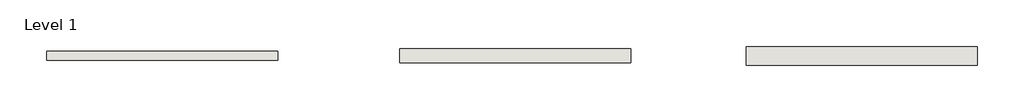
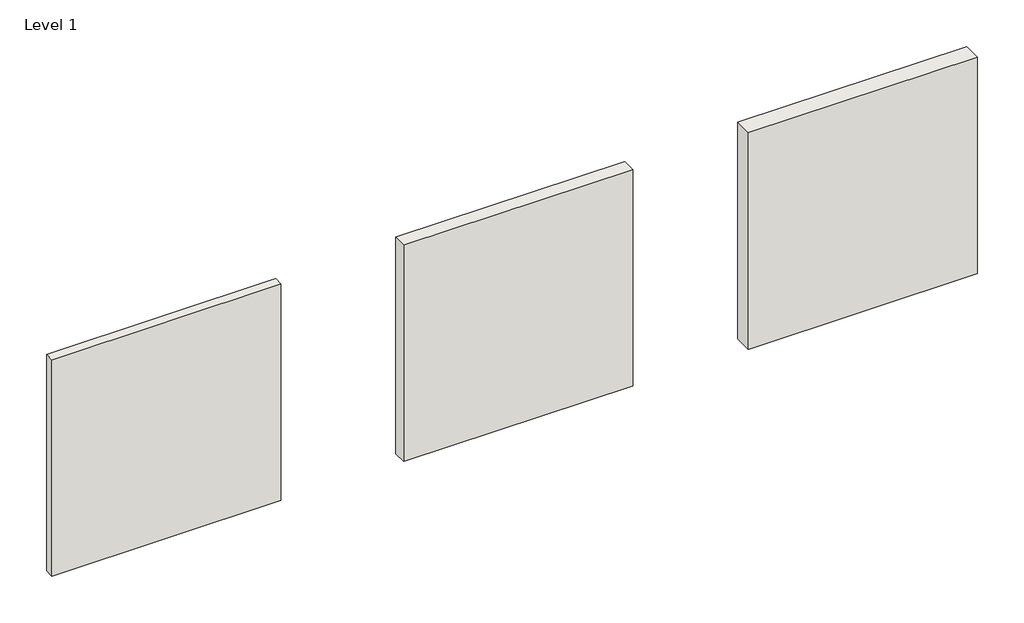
# One storey: 3 walls.
"""IFC4 building model written with IfcOpenShell, lengths in millimetres."""

from ifc_helpers import new_model, si_unit, origin, origin_with_axes, place, context, project, spatial, polyline, outline, extrude, element, save

model = new_model("IFC4")

# Units and contexts
model_context = context("Model", 3, world=origin())
ifc_project = project(units=[si_unit("LENGTHUNIT", "METRE", prefix="MILLI")], contexts=[model_context])

# Site, building, storey
site = spatial("IfcSite", under=ifc_project)
building = spatial("IfcBuilding", under=site)
storey = spatial("IfcBuildingStorey", under=building, Name="Level 1", Elevation=0.0)

# Walls
placement = place(None, origin())
element("IfcWall", 1, ObjectType="SOFALCA-ICB-1000x500mm-60mm", at=placement, inside=storey, context=model_context, shape_type="SweptSolid", body=[
    extrude(outline(polyline([(4702.5240573, 1113.9306684), (3702.5240573, 1113.9306684), (3702.5240573, 1173.9306684), (4702.5240573, 1173.9306684), (4702.5240573, 1113.9306684)])), origin_with_axes(), (0.0, 0.0, 1.0), 1000.0),
])
element("IfcWall", 2, ObjectType="SOFALCA-ICB-1000x500mm-40mm", at=placement, inside=storey, context=model_context, shape_type="SweptSolid", body=[
    extrude(outline(polyline([(3172.5240573, 1123.9306684), (2172.5240573, 1123.9306684), (2172.5240573, 1163.9306684), (3172.5240573, 1163.9306684), (3172.5240573, 1123.9306684)])), origin_with_axes(), (0.0, 0.0, 1.0), 1000.0),
])
element("IfcWall", 3, ObjectType="SOFALCA-ICB-1000x500mm-80mm", at=placement, inside=storey, context=model_context, shape_type="SweptSolid", body=[
    extrude(outline(polyline([(6202.5240573, 1103.9306684), (5202.5240573, 1103.9306684), (5202.5240573, 1183.9306684), (6202.5240573, 1183.9306684), (6202.5240573, 1103.9306684)])), origin_with_axes(), (0.0, 0.0, 1.0), 1000.0),
])

save(model, "model.ifc")
